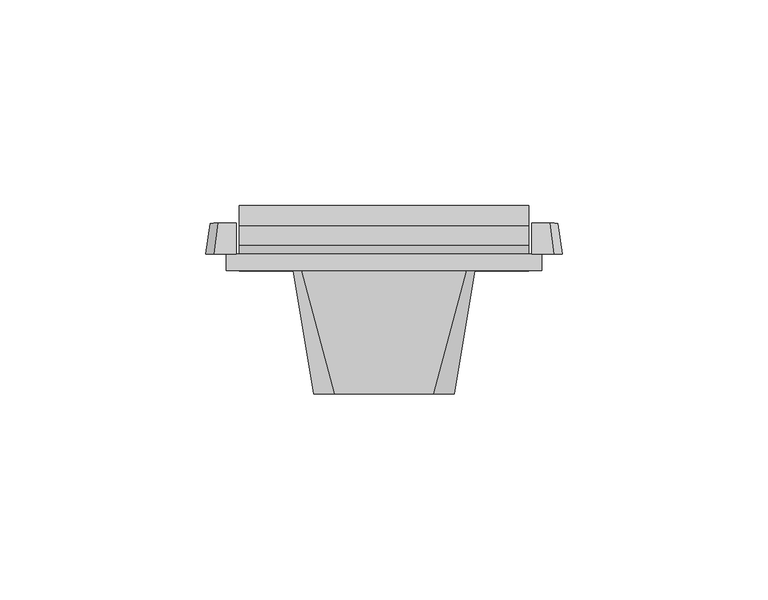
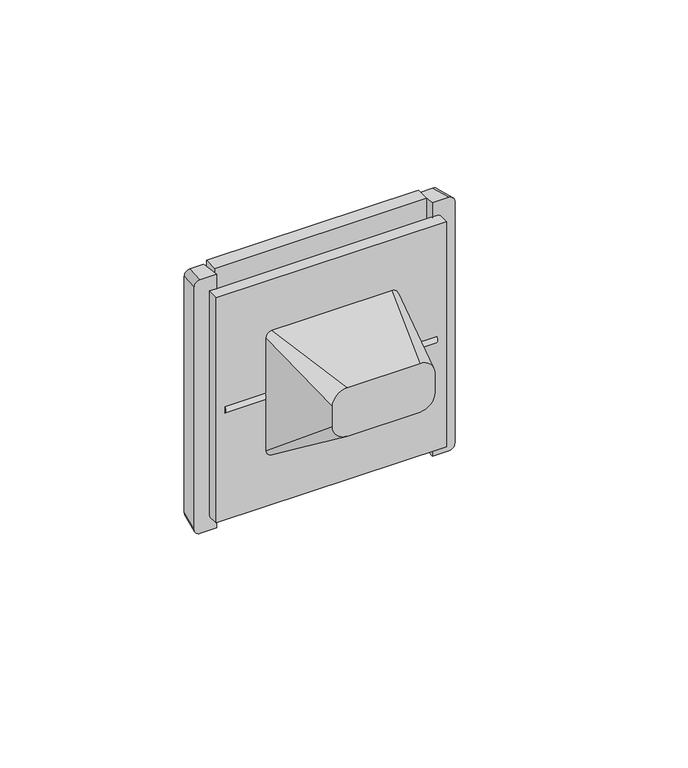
"""IFC4 building model written with IfcOpenShell, lengths in millimetres: proxy geometry, IEK_Forte&Piano_Выключатель : В1_FP101."""

from ifc_helpers import new_model, si_unit, point, frame, origin, place, context, project, spatial, polyline, circle_curve, ellipse_curve, trimmed, source, transform, mapped, element, save
from ifc_brep_helpers import plane_surface, cylinder_surface, revolved_surface, extruded_surface, spline_surface, advanced_brep


def electrical_fixtures_6200cb8f(model_context):
    return source(origin(), model_context, "Body", "AdvancedBrep", [
        advanced_brep(
        [(35.2, 6.2549179, 2.9812023), (35.2, 0.9979294, 0.5298284), (35.2, 1.5972872, -2.8692983), (35.2, 6.5964168, -3.3066655), (35.2, 10.7814607, -43.5210494), (35.2, 15.7741028, -43.2498951), (35.2, 10.987727, 44.8795088), (35.2, 6.2549179, 44.8795088), (-35.2, 6.2549179, 2.9812023), (-35.2, 6.2549179, 44.8795088), (-35.2, 10.987727, 44.8795088), (-35.2, 15.7741028, -43.2498951), (-35.2, 10.7814607, -43.5210494), (-35.2, 6.5964168, -3.3066655), (-35.2, 1.5972872, -2.8692983), (-35.2, 0.9979294, 0.5298284), (-6.0000251, 7.4154801, -11.1771032), (6.0000251, 7.4154801, -11.1771032), (6.0000251, 7.8317535, -15.1771032), (-6.0000251, 7.8317535, -15.1771032), (6.0000251, 11.5120925, -11.1771032), (-6.0000251, 11.5120925, -11.1771032), (-6.0000251, 11.5120925, -15.1771032), (6.0000251, 11.5120925, -15.1771032)],
        [
            (0, 1),
            (1, 2, circle_curve(frame((35.2, 1.7530049, -1.0894363), z_axis=(1.0, 0.0, 0.0), x_axis=(0.0, 1.0, 0.0)), 1.7866608)),
            (2, 3),
            (3, 4),
            (4, 5),
            (5, 6),
            (6, 7),
            (7, 0),
            (8, 9),
            (9, 10),
            (10, 11),
            (11, 12),
            (12, 13),
            (13, 14),
            (14, 15, circle_curve(frame((-35.2, 1.7530049, -1.0894363), z_axis=(-1.0, 0.0, 0.0), x_axis=(0.0, 1.0, 0.0)), 1.7866608)),
            (15, 8),
            (7, 9),
            (8, 0),
            (15, 1),
            (14, 2),
            (13, 3),
            (12, 4),
            (16, 17),
            (17, 18, ellipse_curve(frame((6.0000251, 7.6236168, -13.1771032), z_axis=(0.0, 0.9946284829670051, 0.10350932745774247), x_axis=(0.0, -0.10350932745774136, 0.9946284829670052)), 2.0108011, 2.0)),
            (18, 19),
            (19, 16, ellipse_curve(frame((-6.0000251, 7.6236168, -13.1771032), z_axis=(0.0, 0.9946284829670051, 0.10350932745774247), x_axis=(0.0, -0.10350932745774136, 0.9946284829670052)), 2.0108011, 2.0)),
            (11, 5),
            (10, 6),
            (20, 21),
            (21, 22, circle_curve(frame((-6.0000251, 11.5120925, -13.1771032), z_axis=(0.0, -1.0, 0.0), x_axis=(1.0, 0.0, 0.0)), 2.0)),
            (22, 23),
            (23, 20, circle_curve(frame((6.0000251, 11.5120925, -13.1771032), z_axis=(0.0, -1.0, 0.0), x_axis=(1.0, 0.0, 0.0)), 2.0)),
            (20, 17),
            (16, 21),
            (19, 22),
            (18, 23),
        ],
        [
            plane_surface(frame((35.2, -0.6655077, -0.2458451), z_axis=(1.0, 0.0, 0.0), x_axis=(0.0, -0.9063077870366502, -0.42261826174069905))),
            plane_surface(frame((-35.2, -0.6655077, -0.2458451), z_axis=(-1.0, 0.0, 0.0), x_axis=(0.0, 0.9063077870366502, 0.42261826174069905))),
            plane_surface(frame((35.2, 6.2549179, 44.8795088), z_axis=(0.0, -1.0, 0.0), x_axis=(-1.0, 0.0, 0.0))),
            plane_surface(frame((35.2, 6.2549179, 2.9812023), z_axis=(0.0, -0.42261826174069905, 0.9063077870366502), x_axis=(-1.0, 0.0, 0.0))),
            cylinder_surface(frame((-35.2, 1.7530049, -1.0894363), z_axis=(1.0, 0.0, 0.0), x_axis=(0.0, 1.0, 0.0)), 1.7866608),
            plane_surface(frame((35.2, 1.5972872, -2.8692983), z_axis=(0.0, -0.08715574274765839, -0.9961946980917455), x_axis=(-1.0, 0.0, 0.0))),
            plane_surface(frame((35.2, 6.5964168, -3.3066655), z_axis=(0.0, -0.9946284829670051, -0.10350932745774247), x_axis=(-1.0, 0.0, 0.0))),
            plane_surface(frame((35.2, 10.7814607, -43.5210494), z_axis=(0.0, 0.05423084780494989, -0.998528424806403), x_axis=(-1.0, 0.0, 0.0))),
            plane_surface(frame((35.2, 15.7741028, -43.2498951), z_axis=(0.0, 0.9985284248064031, 0.05423084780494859), x_axis=(-1.0, 0.0, 0.0))),
            plane_surface(frame((35.2, 10.987727, 44.8795088), z_axis=(0.0, 0.0, 1.0), x_axis=(-1.0, 0.0, 0.0))),
            plane_surface(frame((-6.0000251, 11.5120925, -11.1771032), z_axis=(0.0, -1.0, 0.0), x_axis=(1.0, 0.0, 0.0))),
            plane_surface(frame((6.0000251, 3.5120925, -11.1771032), z_axis=(0.0, 0.0, -1.0), x_axis=(0.0, 1.0, 0.0))),
            revolved_surface(polyline([(-4.0000251, 7.4154801, -13.1771032), (-4.0000251, 11.5120925, -13.1771032)]), (-6.0000251, 11.5120925, -13.1771032), (0.0, -1.0, 0.0)),
            plane_surface(frame((-6.0000251, 3.5120925, -15.1771032), z_axis=(0.0, 0.0, 1.0), x_axis=(0.0, 1.0, 0.0))),
            revolved_surface(polyline([(8.0000251, 7.4154801, -13.1771032), (8.0000251, 11.5120925, -13.1771032)]), (6.0000251, 11.5120925, -13.1771032), (0.0, -1.0, 0.0)),
        ],
        [
            (0, [[1, 2, 3, 4, 5, 6, 7, 8]]),
            (1, [[9, 10, 11, 12, 13, 14, 15, 16]]),
            (2, [[-8, 17, -9, 18]]),
            (3, [[-1, -18, -16, 19]]),
            (4, [[-2, -19, -15, 20]]),
            (5, [[-3, -20, -14, 21]]),
            (6, [[-4, -21, -13, 22], [23, 24, 25, 26]]),
            (7, [[-5, -22, -12, 27]]),
            (8, [[-6, -27, -11, 28]]),
            (9, [[-7, -28, -10, -17]]),
            (10, [[29, 30, 31, 32]]),
            (11, [[-29, 33, -23, 34]]),
            (12, [[-30, -34, -26, 35]]),
            (13, [[-31, -35, -25, 36]]),
            (14, [[-32, -36, -24, -33]]),
        ],
    ),
        advanced_brep(
        [(35.8576533, 11.5, 43.5), (35.8576533, 11.5, -43.5), (35.8576533, 4.0, -44.5), (35.8576533, 4.0, -39.5), (35.8576533, 4.0, 39.5), (35.8576533, 4.0, 44.5), (-35.8576533, 11.5, -43.5), (-35.8576533, 11.5, 43.5), (-35.8576533, 4.0, 44.5), (-35.8576533, 4.0, 39.5), (-35.8576533, 4.0, -39.5), (-35.8576533, 4.0, -44.5), (40.25, 11.5, 43.5), (42.25, 11.5, 41.5), (42.25, 11.5, -41.5), (40.25, 11.5, -43.5), (-40.25, 11.5, -43.5), (-42.25, 11.5, -41.5), (-42.25, 11.5, 41.5), (-40.25, 11.5, 43.5), (-41.25, 4.0, 44.5), (-43.25, 4.0, 42.5), (-43.25, 4.0, -42.5), (-41.25, 4.0, -44.5), (-38.25, 4.0, -39.5), (-38.25, 4.0, 39.5), (41.25, 4.0, -44.5), (43.25, 4.0, -42.5), (43.25, 4.0, 42.5), (41.25, 4.0, 44.5), (38.25, 4.0, 39.5), (38.25, 4.0, -39.5), (-38.25, 0.0, 39.5), (-38.25, 0.0, -39.5), (38.25, 0.0, -39.5), (38.25, 0.0, 39.5)],
        [
            (0, 1),
            (1, 2),
            (2, 3),
            (3, 4),
            (4, 5),
            (5, 0),
            (6, 7),
            (7, 8),
            (8, 9),
            (9, 10),
            (10, 11),
            (11, 6),
            (12, 13, circle_curve(frame((40.25, 11.5, 41.5), z_axis=(0.0, 1.0, 0.0), x_axis=(-1.0, 0.0, 0.0)), 2.0)),
            (13, 14),
            (14, 15, circle_curve(frame((40.25, 11.5, -41.5), z_axis=(0.0, 1.0, 0.0), x_axis=(-1.0, 0.0, 0.0)), 2.0)),
            (15, 1),
            (0, 12),
            (16, 17, circle_curve(frame((-40.25, 11.5, -41.5), z_axis=(0.0, 1.0, 0.0), x_axis=(-1.0, 0.0, 0.0)), 2.0)),
            (17, 18),
            (18, 19, circle_curve(frame((-40.25, 11.5, 41.5), z_axis=(0.0, 1.0, 0.0), x_axis=(-1.0, 0.0, 0.0)), 2.0)),
            (19, 7),
            (6, 16),
            (20, 21, circle_curve(frame((-41.25, 4.0, 42.5), z_axis=(0.0, -1.0, 0.0), x_axis=(-1.0, 0.0, 0.0)), 2.0)),
            (21, 22),
            (22, 23, circle_curve(frame((-41.25, 4.0, -42.5), z_axis=(0.0, -1.0, 0.0), x_axis=(-1.0, 0.0, 0.0)), 2.0)),
            (23, 11),
            (10, 24),
            (24, 25),
            (25, 9),
            (8, 20),
            (26, 27, circle_curve(frame((41.25, 4.0, -42.5), z_axis=(0.0, -1.0, 0.0), x_axis=(-1.0, 0.0, 0.0)), 2.0)),
            (27, 28),
            (28, 29, circle_curve(frame((41.25, 4.0, 42.5), z_axis=(0.0, -1.0, 0.0), x_axis=(-1.0, 0.0, 0.0)), 2.0)),
            (29, 5),
            (4, 30),
            (30, 31),
            (31, 3),
            (2, 26),
            (29, 12),
            (19, 20),
            (28, 13),
            (27, 14),
            (26, 15),
            (23, 16),
            (22, 17),
            (21, 18),
            (3, 10),
            (9, 4),
            (32, 33),
            (33, 34),
            (34, 35),
            (35, 32),
            (32, 25),
            (24, 33),
            (31, 34),
            (30, 35),
        ],
        [
            plane_surface(frame((35.8576533, 11.5, 44.5), z_axis=(-1.0, 0.0, 0.0), x_axis=(0.0, -1.0, 0.0))),
            plane_surface(frame((-35.8576533, 11.5, -44.5), z_axis=(1.0, 0.0, 0.0), x_axis=(0.0, -1.0, 0.0))),
            plane_surface(frame((0.0, 11.5, 0.0), z_axis=(0.0, 1.0, 0.0), x_axis=(1.0, 0.0, 0.0))),
            plane_surface(frame((0.0, 4.0, 0.0), z_axis=(0.0, -1.0, 0.0), x_axis=(1.0, 0.0, 0.0))),
            plane_surface(frame((0.0, 4.0, 44.5), z_axis=(0.0, 0.13216372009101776, 0.9912279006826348), x_axis=(1.0, 0.0, 0.0))),
            extruded_surface(trimmed(circle_curve(frame((41.25, 4.0, 42.5), z_axis=(0.0, 1.0, 0.0), x_axis=(-1.0, 0.0, 0.0)), 2.0), [point((41.25, 4.0, 44.5))], [point((43.25, 4.0, 42.5))], True, "CARTESIAN"), (-1.0, 7.5, -1.0), 7.632168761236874),
            plane_surface(frame((43.25, 4.0, 0.0), z_axis=(0.9912279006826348, 0.13216372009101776, 0.0), x_axis=(0.0, 0.0, -1.0))),
            extruded_surface(trimmed(circle_curve(frame((41.25, 4.0, -42.5), z_axis=(0.0, 1.0, 0.0), x_axis=(-1.0, 0.0, 0.0)), 2.0), [point((43.25, 4.0, -42.5))], [point((41.25, 4.0, -44.5))], True, "CARTESIAN"), (-1.0, 7.5, 1.0), 7.632168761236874),
            plane_surface(frame((0.0, 4.0, -44.5), z_axis=(0.0, 0.13216372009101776, -0.9912279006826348), x_axis=(-1.0, 0.0, 0.0))),
            extruded_surface(trimmed(circle_curve(frame((-41.25, 4.0, -42.5), z_axis=(0.0, 1.0, 0.0), x_axis=(-1.0, 0.0, 0.0)), 2.0), [point((-41.25, 4.0, -44.5))], [point((-43.25, 4.0, -42.5))], True, "CARTESIAN"), (1.0, 7.5, 1.0), 7.632168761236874),
            plane_surface(frame((-43.25, 4.0, 0.0), z_axis=(-0.9912279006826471, 0.13216372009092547, 0.0), x_axis=(0.0, 0.0, 1.0))),
            extruded_surface(trimmed(circle_curve(frame((-41.25, 4.0, 42.5), z_axis=(0.0, 1.0, 0.0), x_axis=(-1.0, 0.0, 0.0)), 2.0), [point((-43.25, 4.0, 42.5))], [point((-41.25, 4.0, 44.5))], True, "CARTESIAN"), (1.0, 7.5, -1.0), 7.632168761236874),
            plane_surface(frame((-38.25, 4.0, 39.5), z_axis=(0.0, 1.0, 0.0), x_axis=(0.0, 0.0, 1.0))),
            plane_surface(frame((-38.25, 0.0, 39.5), z_axis=(0.0, -1.0, 0.0), x_axis=(0.0, 0.0, -1.0))),
            plane_surface(frame((-38.25, 0.0, 39.5), z_axis=(-1.0, 0.0, 0.0), x_axis=(0.0, 1.0, 0.0))),
            plane_surface(frame((-38.25, 0.0, -39.5), z_axis=(0.0, 0.0, -1.0), x_axis=(0.0, 1.0, 0.0))),
            plane_surface(frame((38.25, 0.0, -39.5), z_axis=(1.0, 0.0, 0.0), x_axis=(0.0, 1.0, 0.0))),
            plane_surface(frame((38.25, 0.0, 39.5), z_axis=(0.0, 0.0, 1.0), x_axis=(0.0, 1.0, 0.0))),
        ],
        [
            (0, [[1, 2, 3, 4, 5, 6]]),
            (1, [[7, 8, 9, 10, 11, 12]]),
            (2, [[13, 14, 15, 16, -1, 17]]),
            (2, [[18, 19, 20, 21, -7, 22]]),
            (3, [[23, 24, 25, 26, -11, 27, 28, 29, -9, 30]]),
            (3, [[31, 32, 33, 34, -5, 35, 36, 37, -3, 38]]),
            (4, [[39, -17, -6, -34]]),
            (4, [[40, -30, -8, -21]]),
            (5, [[-13, -39, -33, 41]]),
            (6, [[-14, -41, -32, 42]]),
            (7, [[-15, -42, -31, 43]]),
            (8, [[-43, -38, -2, -16]]),
            (8, [[44, -22, -12, -26]]),
            (9, [[-18, -44, -25, 45]]),
            (10, [[-19, -45, -24, 46]]),
            (11, [[-20, -46, -23, -40]]),
            (12, [[47, -10, 48, -4]]),
            (13, [[49, 50, 51, 52]]),
            (14, [[-49, 53, -28, 54]]),
            (15, [[-50, -54, -27, -47, -37, 55]]),
            (16, [[-51, -55, -36, 56]]),
            (17, [[-52, -56, -35, -48, -29, -53]]),
        ],
    ),
        advanced_brep(
        [(-12.0, -30.0, 17.0), (-17.0, -30.0, 12.0), (-17.0, -30.0, 5.0), (-12.0, -30.0, 0.0), (12.0, -30.0, 0.0), (17.0, -30.0, 5.0), (17.0, -30.0, 12.0), (12.0, -30.0, 17.0), (-20.0, 0.0, 22.0), (20.0, 0.0, 22.0), (22.0, 0.0, 20.0), (22.0, 0.0, -20.0), (20.0, 0.0, -22.0), (-20.0, 0.0, -22.0), (-22.0, 0.0, -20.0), (-22.0, 0.0, 20.0)],
        [
            (0, 1, circle_curve(frame((-12.0, -30.0, 12.0), z_axis=(0.0, -1.0, 0.0), x_axis=(1.0, 0.0, 0.0)), 5.0)),
            (1, 2),
            (2, 3, circle_curve(frame((-12.0, -30.0, 5.0), z_axis=(0.0, -1.0, 0.0), x_axis=(1.0, 0.0, 0.0)), 5.0)),
            (3, 4),
            (4, 5, circle_curve(frame((12.0, -30.0, 5.0), z_axis=(0.0, -1.0, 0.0), x_axis=(1.0, 0.0, 0.0)), 5.0)),
            (5, 6),
            (6, 7, circle_curve(frame((12.0, -30.0, 12.0), z_axis=(0.0, -1.0, 0.0), x_axis=(1.0, 0.0, 0.0)), 5.0)),
            (7, 0),
            (8, 9),
            (9, 10, circle_curve(frame((20.0, 0.0, 20.0), z_axis=(0.0, 1.0, 0.0), x_axis=(1.0, 0.0, 0.0)), 2.0)),
            (10, 11),
            (11, 12, circle_curve(frame((20.0, 0.0, -20.0), z_axis=(0.0, 1.0, 0.0), x_axis=(1.0, 0.0, 0.0)), 2.0)),
            (12, 13),
            (13, 14, circle_curve(frame((-20.0, 0.0, -20.0), z_axis=(0.0, 1.0, 0.0), x_axis=(1.0, 0.0, 0.0)), 2.0)),
            (14, 15),
            (15, 8, circle_curve(frame((-20.0, 0.0, 20.0), z_axis=(0.0, 1.0, 0.0), x_axis=(1.0, 0.0, 0.0)), 2.0)),
            (8, 0),
            (7, 9),
            (6, 10),
            (5, 11),
            (4, 12),
            (3, 13),
            (2, 14),
            (1, 15),
        ],
        [
            plane_surface(frame((0.0, -30.0, 8.5), z_axis=(0.0, -1.0, 0.0), x_axis=(-1.0, 0.0, 0.0))),
            plane_surface(frame((0.0, 0.0, 0.0), z_axis=(0.0, 1.0, 0.0), x_axis=(-1.0, 0.0, 0.0))),
            plane_surface(frame((0.0, 0.0, 22.0), z_axis=(0.0, -0.16439898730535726, 0.9863939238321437), x_axis=(-1.0, 0.0, 0.0))),
            spline_surface(2, 1, [[(22.0, 0.0, 20.0), (17.0, -30.0, 12.0)], [(22.0, 0.0, 22.0), (17.0, -30.0, 17.0)], [(20.0, 0.0, 22.0), (12.0, -30.0, 17.0)]], [3, 3], [2, 2], [0.0, 1.0], [0.0, 1.0], weights=[[1.0, 1.0], [0.7071067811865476, 0.7071067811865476], [1.0, 1.0]]),
            plane_surface(frame((22.0, 0.0, 0.0), z_axis=(0.9863939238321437, -0.1643989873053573, 0.0), x_axis=(0.0, 0.0, 1.0))),
            spline_surface(2, 1, [[(20.0, 0.0, -22.0), (12.0, -30.0, 0.0)], [(22.0, 0.0, -22.0), (17.0, -30.0, 0.0)], [(22.0, 0.0, -20.0), (17.0, -30.0, 5.0)]], [3, 3], [2, 2], [0.0, 1.0], [0.0, 1.0], weights=[[1.0, 1.0], [0.7071067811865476, 0.7071067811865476], [1.0, 1.0]]),
            plane_surface(frame((0.0, 0.0, -22.0), z_axis=(0.0, -0.591363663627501, -0.8064049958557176), x_axis=(1.0, 0.0, 0.0))),
            spline_surface(2, 1, [[(-22.0, 0.0, -20.0), (-17.0, -30.0, 5.0)], [(-22.0, 0.0, -22.0), (-17.0, -30.0, 0.0)], [(-20.0, 0.0, -22.0), (-12.0, -30.0, 0.0)]], [3, 3], [2, 2], [0.0, 1.0], [0.0, 1.0], weights=[[1.0, 1.0], [0.7071067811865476, 0.7071067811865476], [1.0, 1.0]]),
            plane_surface(frame((-22.0, 0.0, 0.0), z_axis=(-0.9863939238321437, -0.1643989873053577, 0.0), x_axis=(0.0, 0.0, -1.0))),
            spline_surface(2, 1, [[(-20.0, 0.0, 22.0), (-12.0, -30.0, 17.0)], [(-22.0, 0.0, 22.0), (-17.0, -30.0, 17.0)], [(-22.0, 0.0, 20.0), (-17.0, -30.0, 12.0)]], [3, 3], [2, 2], [0.0, 1.0], [0.0, 1.0], weights=[[1.0, 1.0], [0.7071067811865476, 0.7071067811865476], [1.0, 1.0]]),
        ],
        [
            (0, [[1, 2, 3, 4, 5, 6, 7, 8]]),
            (1, [[9, 10, 11, 12, 13, 14, 15, 16]]),
            (2, [[-9, 17, -8, 18]]),
            (3, [[-10, -18, -7, 19]]),
            (4, [[-11, -19, -6, 20]]),
            (5, [[-12, -20, -5, 21]]),
            (6, [[-13, -21, -4, 22]]),
            (7, [[-14, -22, -3, 23]]),
            (8, [[-15, -23, -2, 24]]),
            (9, [[-16, -24, -1, -17]]),
        ],
    ),
    ])


if __name__ == "__main__":
    model = new_model("IFC4")
    model_context = context("Model", 3, world=origin())
    ifc_project = project(units=[si_unit("LENGTHUNIT", "METRE", prefix="MILLI")], contexts=[model_context])
    site = spatial("IfcSite", under=ifc_project)
    building = spatial("IfcBuilding", under=site)
    placement = place(None, origin())
    electrical_fixtures_shape = electrical_fixtures_6200cb8f(model_context)
    element("IfcBuildingElementProxy", 1, Name="IEK_Forte&Piano_Выключатель : В1_FP101", ObjectType="IEK_Forte&Piano_Выключатель : В1_FP101", at=placement, inside=building, context=model_context, shape_type="MappedRepresentation", body=[
        mapped(electrical_fixtures_shape, transform((0.0, 0.0, 0.0), x_axis=(1.0, 0.0, 0.0), y_axis=(0.0, 1.0, 0.0), z_axis=(0.0, 0.0, 1.0))),
    ])
    save(model, "model.ifc")
